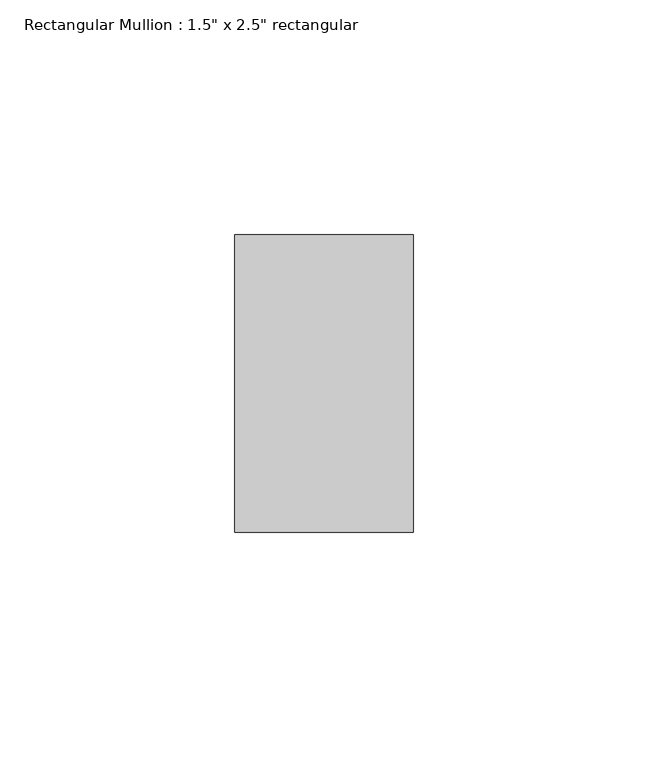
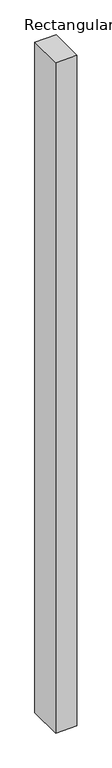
"""IFC4 building model written with IfcOpenShell, lengths in millimetres: member geometry."""

from ifc_helpers import new_model, si_unit, frame, origin, place, context, project, spatial, polyline, outline, extrude, source, transform, mapped, element, save


def member_abb03c45(model_context):
    return source(origin(), model_context, "Body", "SweptSolid", [
        extrude(outline(polyline([(19.05, 31.75), (19.05, -31.75), (-19.05, -31.75), (-19.05, 31.75), (19.05, 31.75)])), frame((0.0, 0.0, -1259.5118481), z_axis=(0.0, 0.0, 1.0), x_axis=(1.0, 0.0, 0.0)), (0.0, 0.0, 1.0), 1259.5118481),
    ])


if __name__ == "__main__":
    model = new_model("IFC4")
    model_context = context("Model", 3, world=origin())
    ifc_project = project(units=[si_unit("LENGTHUNIT", "METRE", prefix="MILLI")], contexts=[model_context])
    site = spatial("IfcSite", under=ifc_project)
    building = spatial("IfcBuilding", under=site)
    placement = place(None, origin())
    member_shape = member_abb03c45(model_context)
    element("IfcMember", 1, ObjectType="Rectangular Mullion : 1.5\" x 2.5\" rectangular", at=placement, inside=building, context=model_context, shape_type="MappedRepresentation", body=[
        mapped(member_shape, transform((0.0, 0.0, 0.0), x_axis=(1.0, 0.0, 0.0), y_axis=(0.0, 1.0, 0.0), z_axis=(0.0, 0.0, 1.0))),
    ])
    save(model, "model.ifc")
